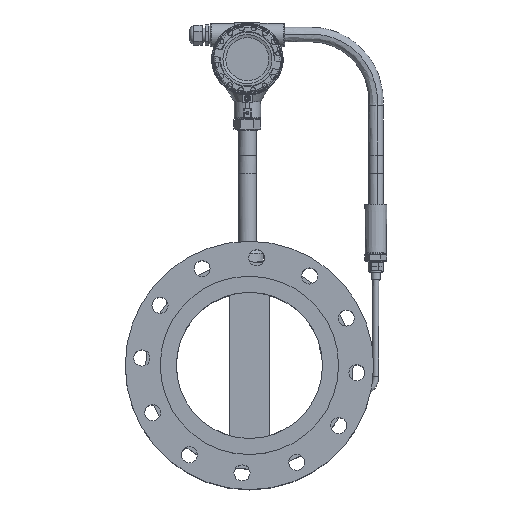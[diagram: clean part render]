
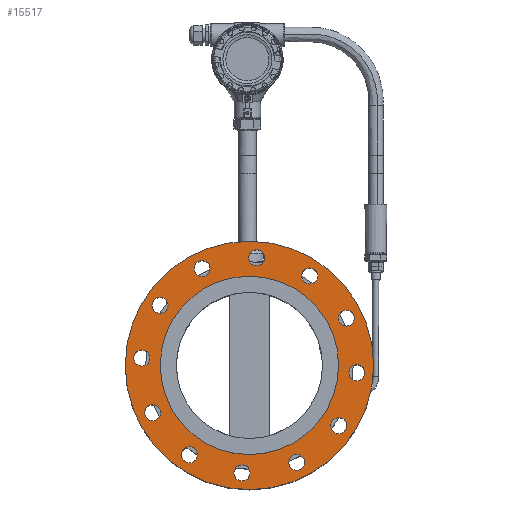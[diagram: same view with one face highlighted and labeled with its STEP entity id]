
A CAD part, top view. The second image highlights one B-rep face of the part: STEP entity #15517.
In plain terms, the highlighted planar face has unit normal (0, 0, 1).
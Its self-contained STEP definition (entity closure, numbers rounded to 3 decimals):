
#588=FACE_BOUND('',#5539,.T.);
#589=FACE_BOUND('',#5540,.T.);
#590=FACE_BOUND('',#5541,.T.);
#591=FACE_BOUND('',#5542,.T.);
#592=FACE_BOUND('',#5543,.T.);
#593=FACE_BOUND('',#5544,.T.);
#594=FACE_BOUND('',#5545,.T.);
#595=FACE_BOUND('',#5546,.T.);
#596=FACE_BOUND('',#5547,.T.);
#597=FACE_BOUND('',#5548,.T.);
#598=FACE_BOUND('',#5549,.T.);
#599=FACE_BOUND('',#5550,.T.);
#600=FACE_BOUND('',#5551,.T.);
#1126=PLANE('',#17315);
#4539=FACE_OUTER_BOUND('',#5538,.T.);
#5538=EDGE_LOOP('',(#14152));
#5539=EDGE_LOOP('',(#14153));
#5540=EDGE_LOOP('',(#14154));
#5541=EDGE_LOOP('',(#14155));
#5542=EDGE_LOOP('',(#14156));
#5543=EDGE_LOOP('',(#14157));
#5544=EDGE_LOOP('',(#14158));
#5545=EDGE_LOOP('',(#14159));
#5546=EDGE_LOOP('',(#14160));
#5547=EDGE_LOOP('',(#14161));
#5548=EDGE_LOOP('',(#14162));
#5549=EDGE_LOOP('',(#14163));
#5550=EDGE_LOOP('',(#14164));
#5551=EDGE_LOOP('',(#14165));
#6320=CIRCLE('',#17265,11.);
#6322=CIRCLE('',#17268,11.);
#6324=CIRCLE('',#17271,11.);
#6326=CIRCLE('',#17274,11.);
#6328=CIRCLE('',#17277,11.);
#6330=CIRCLE('',#17280,11.);
#6332=CIRCLE('',#17283,11.);
#6334=CIRCLE('',#17286,11.);
#6336=CIRCLE('',#17289,11.);
#6338=CIRCLE('',#17292,11.);
#6340=CIRCLE('',#17295,11.);
#6342=CIRCLE('',#17298,11.);
#6348=CIRCLE('',#17307,122.092);
#6350=CIRCLE('',#17312,170.002);
#7697=VERTEX_POINT('',#30520);
#7699=VERTEX_POINT('',#30526);
#7701=VERTEX_POINT('',#30532);
#7703=VERTEX_POINT('',#30538);
#7705=VERTEX_POINT('',#30544);
#7707=VERTEX_POINT('',#30550);
#7709=VERTEX_POINT('',#30556);
#7711=VERTEX_POINT('',#30562);
#7713=VERTEX_POINT('',#30568);
#7715=VERTEX_POINT('',#30574);
#7717=VERTEX_POINT('',#30580);
#7719=VERTEX_POINT('',#30586);
#7725=VERTEX_POINT('',#30603);
#7727=VERTEX_POINT('',#30612);
#9852=EDGE_CURVE('',#7697,#7697,#6320,.T.);
#9855=EDGE_CURVE('',#7699,#7699,#6322,.T.);
#9858=EDGE_CURVE('',#7701,#7701,#6324,.T.);
#9861=EDGE_CURVE('',#7703,#7703,#6326,.T.);
#9864=EDGE_CURVE('',#7705,#7705,#6328,.T.);
#9867=EDGE_CURVE('',#7707,#7707,#6330,.T.);
#9870=EDGE_CURVE('',#7709,#7709,#6332,.T.);
#9873=EDGE_CURVE('',#7711,#7711,#6334,.T.);
#9876=EDGE_CURVE('',#7713,#7713,#6336,.T.);
#9879=EDGE_CURVE('',#7715,#7715,#6338,.T.);
#9882=EDGE_CURVE('',#7717,#7717,#6340,.T.);
#9885=EDGE_CURVE('',#7719,#7719,#6342,.T.);
#9894=EDGE_CURVE('',#7725,#7725,#6348,.T.);
#9897=EDGE_CURVE('',#7727,#7727,#6350,.T.);
#14152=ORIENTED_EDGE('',*,*,#9897,.T.);
#14153=ORIENTED_EDGE('',*,*,#9852,.T.);
#14154=ORIENTED_EDGE('',*,*,#9855,.T.);
#14155=ORIENTED_EDGE('',*,*,#9858,.T.);
#14156=ORIENTED_EDGE('',*,*,#9861,.T.);
#14157=ORIENTED_EDGE('',*,*,#9864,.T.);
#14158=ORIENTED_EDGE('',*,*,#9867,.T.);
#14159=ORIENTED_EDGE('',*,*,#9870,.T.);
#14160=ORIENTED_EDGE('',*,*,#9873,.T.);
#14161=ORIENTED_EDGE('',*,*,#9876,.T.);
#14162=ORIENTED_EDGE('',*,*,#9879,.T.);
#14163=ORIENTED_EDGE('',*,*,#9882,.T.);
#14164=ORIENTED_EDGE('',*,*,#9885,.T.);
#14165=ORIENTED_EDGE('',*,*,#9894,.T.);
#15517=ADVANCED_FACE('',(#4539,#588,#589,#590,#591,#592,#593,#594,#595,
#596,#597,#598,#599,#600),#1126,.F.);
#17265=AXIS2_PLACEMENT_3D('',#30521,#21749,#21750);
#17268=AXIS2_PLACEMENT_3D('',#30527,#21756,#21757);
#17271=AXIS2_PLACEMENT_3D('',#30533,#21763,#21764);
#17274=AXIS2_PLACEMENT_3D('',#30539,#21770,#21771);
#17277=AXIS2_PLACEMENT_3D('',#30545,#21777,#21778);
#17280=AXIS2_PLACEMENT_3D('',#30551,#21784,#21785);
#17283=AXIS2_PLACEMENT_3D('',#30557,#21791,#21792);
#17286=AXIS2_PLACEMENT_3D('',#30563,#21798,#21799);
#17289=AXIS2_PLACEMENT_3D('',#30569,#21805,#21806);
#17292=AXIS2_PLACEMENT_3D('',#30575,#21812,#21813);
#17295=AXIS2_PLACEMENT_3D('',#30581,#21819,#21820);
#17298=AXIS2_PLACEMENT_3D('',#30587,#21826,#21827);
#17307=AXIS2_PLACEMENT_3D('',#30605,#21847,#21848);
#17312=AXIS2_PLACEMENT_3D('',#30613,#21858,#21859);
#17315=AXIS2_PLACEMENT_3D('',#30618,#21865,#21866);
#21749=DIRECTION('center_axis',(0.,0.,
-1.));
#21750=DIRECTION('ref_axis',(1.,0.,0.));
#21756=DIRECTION('center_axis',(0.,0.,
-1.));
#21757=DIRECTION('ref_axis',(1.,0.,0.));
#21763=DIRECTION('center_axis',(0.,0.,
-1.));
#21764=DIRECTION('ref_axis',(1.,0.,0.));
#21770=DIRECTION('center_axis',(0.,0.,
-1.));
#21771=DIRECTION('ref_axis',(1.,0.,0.));
#21777=DIRECTION('center_axis',(0.,0.,
-1.));
#21778=DIRECTION('ref_axis',(1.,0.,0.));
#21784=DIRECTION('center_axis',(0.,0.,
-1.));
#21785=DIRECTION('ref_axis',(1.,0.,0.));
#21791=DIRECTION('center_axis',(0.,0.,
-1.));
#21792=DIRECTION('ref_axis',(1.,0.,0.));
#21798=DIRECTION('center_axis',(0.,0.,
-1.));
#21799=DIRECTION('ref_axis',(1.,0.,0.));
#21805=DIRECTION('center_axis',(0.,0.,
-1.));
#21806=DIRECTION('ref_axis',(1.,0.,0.));
#21812=DIRECTION('center_axis',(0.,0.,
-1.));
#21813=DIRECTION('ref_axis',(1.,0.,0.));
#21819=DIRECTION('center_axis',(0.,0.,
-1.));
#21820=DIRECTION('ref_axis',(1.,0.,0.));
#21826=DIRECTION('center_axis',(0.,0.,
-1.));
#21827=DIRECTION('ref_axis',(1.,0.,0.));
#21847=DIRECTION('center_axis',(0.,0.,
-1.));
#21848=DIRECTION('ref_axis',(1.,0.,0.));
#21858=DIRECTION('center_axis',(0.,0.,
1.));
#21859=DIRECTION('ref_axis',(-1.,0.,0.));
#21865=DIRECTION('center_axis',(0.,0.,
-1.));
#21866=DIRECTION('ref_axis',(-1.,0.,0.));
#30520=CARTESIAN_POINT('',(-505.657,202.353,325.692));
#30521=CARTESIAN_POINT('Origin',(-494.657,202.353,325.692));
#30526=CARTESIAN_POINT('',(-393.397,-27.139,325.683));
#30527=CARTESIAN_POINT('Origin',(-382.397,-27.139,325.683));
#30532=CARTESIAN_POINT('',(-250.781,184.827,325.691));
#30533=CARTESIAN_POINT('Origin',(-239.781,184.827,325.691));
#30538=CARTESIAN_POINT('',(-236.126,109.895,325.689));
#30539=CARTESIAN_POINT('Origin',(-225.126,109.895,325.689));
#30544=CARTESIAN_POINT('',(-465.618,-2.365,325.684));
#30545=CARTESIAN_POINT('Origin',(-454.618,-2.365,325.684));
#30550=CARTESIAN_POINT('',(-448.091,252.51,325.694));
#30551=CARTESIAN_POINT('Origin',(-437.091,252.51,325.694));
#30556=CARTESIAN_POINT('',(-530.431,130.132,325.689));
#30557=CARTESIAN_POINT('Origin',(-519.431,130.132,325.689));
#30562=CARTESIAN_POINT('',(-318.465,-12.484,325.684));
#30563=CARTESIAN_POINT('Origin',(-307.465,-12.484,325.684));
#30568=CARTESIAN_POINT('',(-300.939,242.392,325.694));
#30569=CARTESIAN_POINT('Origin',(-289.939,242.392,325.694));
#30574=CARTESIAN_POINT('',(-260.9,37.674,325.686));
#30575=CARTESIAN_POINT('Origin',(-249.9,37.674,325.686));
#30580=CARTESIAN_POINT('',(-515.775,55.2,325.686));
#30581=CARTESIAN_POINT('Origin',(-504.775,55.2,325.686));
#30586=CARTESIAN_POINT('',(-373.16,267.166,325.695));
#30587=CARTESIAN_POINT('Origin',(-362.16,267.166,325.695));
#30603=CARTESIAN_POINT('',(-494.37,120.013,325.689));
#30605=CARTESIAN_POINT('Origin',(-372.278,120.013,325.689));
#30612=CARTESIAN_POINT('',(-202.276,120.013,325.689));
#30613=CARTESIAN_POINT('Origin',(-372.278,120.013,325.689));
#30618=CARTESIAN_POINT('Origin',(-372.278,120.013,325.689));
